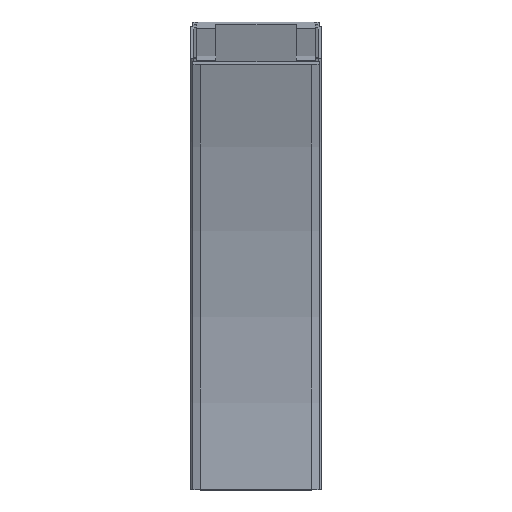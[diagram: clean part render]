
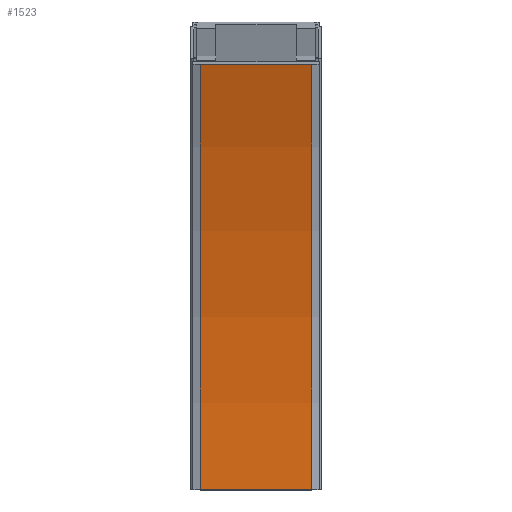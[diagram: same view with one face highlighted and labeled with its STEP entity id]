
A CAD part, top view. The second image highlights one B-rep face of the part: STEP entity #1523.
In plain terms, the highlighted cylindrical face has radius 817.5 mm (diameter 1635 mm), a partial arc.
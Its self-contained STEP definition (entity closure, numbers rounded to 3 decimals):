
#79=CYLINDRICAL_SURFACE('',#1637,817.5);
#110=FACE_OUTER_BOUND('',#197,.T.);
#197=EDGE_LOOP('',(#1004,#1005,#1006,#1007));
#289=CIRCLE('',#1636,817.5);
#290=CIRCLE('',#1638,817.5);
#358=LINE('',#2198,#484);
#359=LINE('',#2200,#485);
#484=VECTOR('',#1790,10.);
#485=VECTOR('',#1791,10.);
#610=VERTEX_POINT('',#2191);
#611=VERTEX_POINT('',#2193);
#612=VERTEX_POINT('',#2197);
#613=VERTEX_POINT('',#2199);
#768=EDGE_CURVE('',#610,#611,#289,.T.);
#769=EDGE_CURVE('',#612,#610,#358,.T.);
#770=EDGE_CURVE('',#613,#611,#359,.T.);
#771=EDGE_CURVE('',#612,#613,#290,.T.);
#1004=ORIENTED_EDGE('',*,*,#769,.T.);
#1005=ORIENTED_EDGE('',*,*,#768,.T.);
#1006=ORIENTED_EDGE('',*,*,#770,.F.);
#1007=ORIENTED_EDGE('',*,*,#771,.F.);
#1523=ADVANCED_FACE('',(#110),#79,.F.);
#1636=AXIS2_PLACEMENT_3D('',#2195,#1786,#1787);
#1637=AXIS2_PLACEMENT_3D('',#2196,#1788,#1789);
#1638=AXIS2_PLACEMENT_3D('',#2201,#1792,#1793);
#1786=DIRECTION('center_axis',(1.,0.,0.));
#1787=DIRECTION('ref_axis',(0.,0.,-1.));
#1788=DIRECTION('center_axis',(1.,0.,0.));
#1789=DIRECTION('ref_axis',(0.,0.,-1.));
#1790=DIRECTION('',(1.,0.,0.));
#1791=DIRECTION('',(1.,0.,0.));
#1792=DIRECTION('center_axis',(1.,0.,0.));
#1793=DIRECTION('ref_axis',(0.,0.,
-1.));
#2191=CARTESIAN_POINT('',(36.5,0.,42.5));
#2193=CARTESIAN_POINT('',(36.5,279.601,91.801));
#2195=CARTESIAN_POINT('Origin',(36.5,0.,
860.));
#2196=CARTESIAN_POINT('Origin',(0.,0.,860.));
#2197=CARTESIAN_POINT('',(-36.5,0.,42.5));
#2198=CARTESIAN_POINT('',(-36.5,0.,42.5));
#2199=CARTESIAN_POINT('',(-36.5,279.601,91.801));
#2200=CARTESIAN_POINT('',(-36.5,279.601,91.801));
#2201=CARTESIAN_POINT('Origin',(-36.5,0.,
860.));
